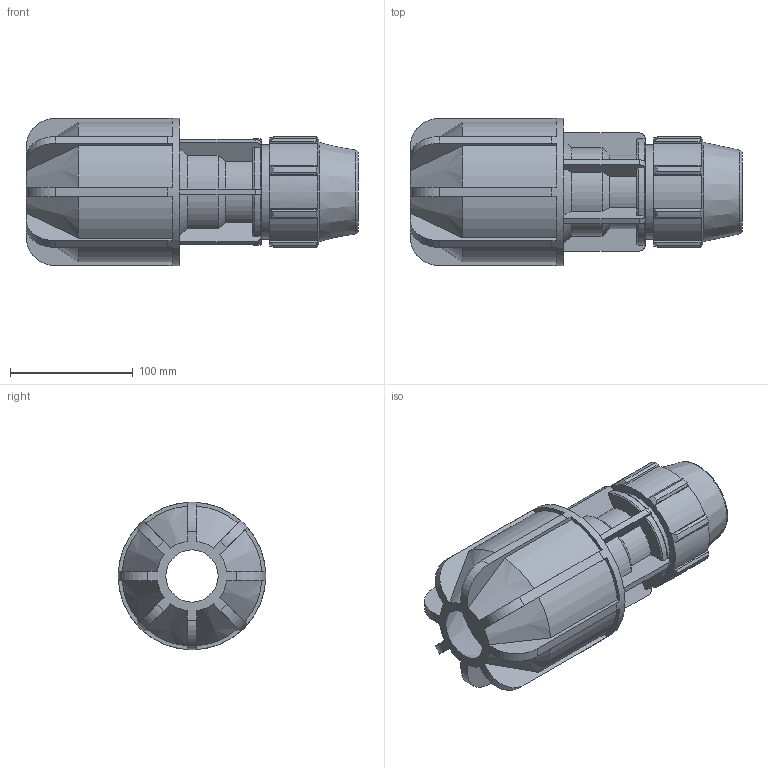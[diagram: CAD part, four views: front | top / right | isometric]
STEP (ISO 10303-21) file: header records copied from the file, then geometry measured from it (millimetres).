
FILE_DESCRIPTION(/* description */ ('PLASSON PLASS4 COUPLING 1 1/2'''' - 1.675'),/* implementation_level */ '2;1');
FILE_NAME(/* name */ 'C:\Dropbox\KIMPROJECTS-Inventor 2019\99-16-3568-Processing Inch\ASTM Compression 2021\070170M0\070170M15050.ipt.stp',/* time_stamp */ '2021-08-26T12:29:08+03:00',/* author */ ('KIM'),/* organization */ (''),/* preprocessor_version */ 'ST-DEVELOPER v17.2',/* originating_system */ 'Autodesk Inventor 2019',/* authorisation */ '');
FILE_SCHEMA (('AUTOMOTIVE_DESIGN { 1 0 10303 214 3 1 1 }'));
Length unit declared in the file: inch
Products named in the file (1): 070170M15050
Bounding box: 270 x 119.89 x 119.89 mm (x, y, z)
Volume: 1204146.8 mm3; surface area: 176142.3 mm2
Topology: 1 solids, 1 shells, 220 faces, 639 edges, 426 vertices
Faces by surface type: plane 111, cylinder 61, cone 34, torus 14
Full cylindrical faces by diameter (mm): 43.29 x1, 48.1 x1, 54.978 x1, 76.81 x1, 119.888 x1
Entity records: 7688 total; most frequent: CARTESIAN_POINT 1646, ORIENTED_EDGE 1278, DIRECTION 1191, EDGE_CURVE 639, AXIS2_PLACEMENT_3D 427, VERTEX_POINT 426, LINE 337, VECTOR 337
